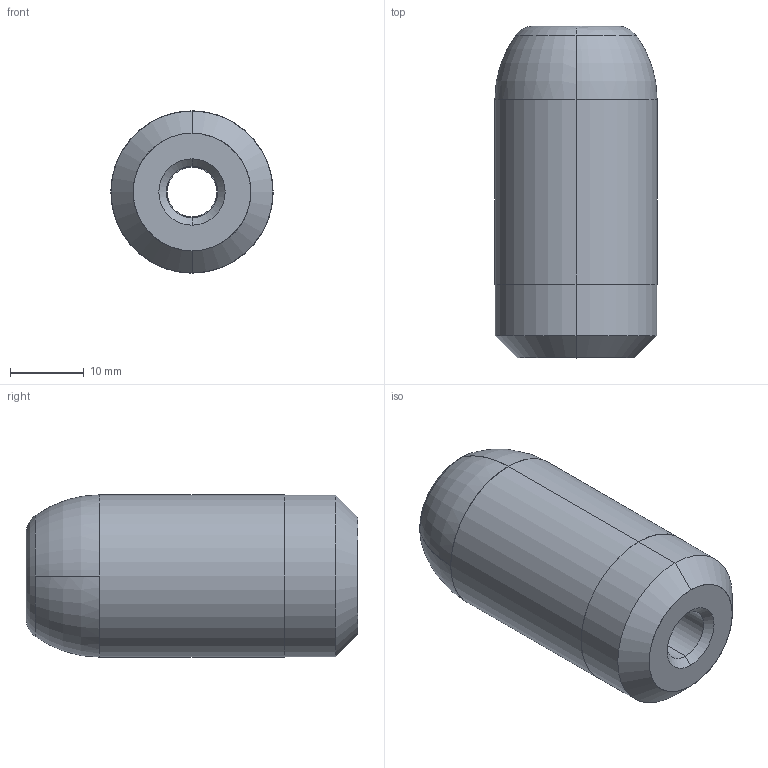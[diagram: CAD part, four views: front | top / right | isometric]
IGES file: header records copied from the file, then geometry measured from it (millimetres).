
Start section: START RECORD GO HERE.
Global section: file name: 700-22-45.igs; native system: DASSAULT SYSTEMES CATIA V5 R20 - www.3ds.com; preprocessor: CATIA Version 5 Release 20 ; author: Utente; organization: NB04-ASUS; date: 20201129.131651; units: millimetre
Bounding box: 22 x 45 x 22 mm (x, y, z)
Surface area: 4367.3 mm2 (no closed solid volume)
Topology: 0 solids, 0 shells, 24 faces, 100 edges, 100 vertices
Faces by surface type: revolution 20, plane 4
